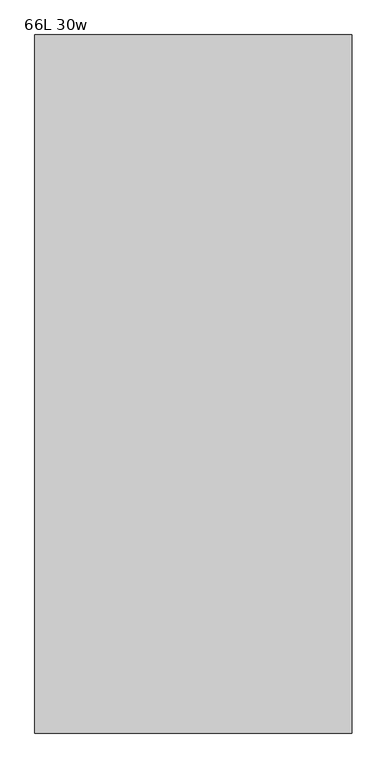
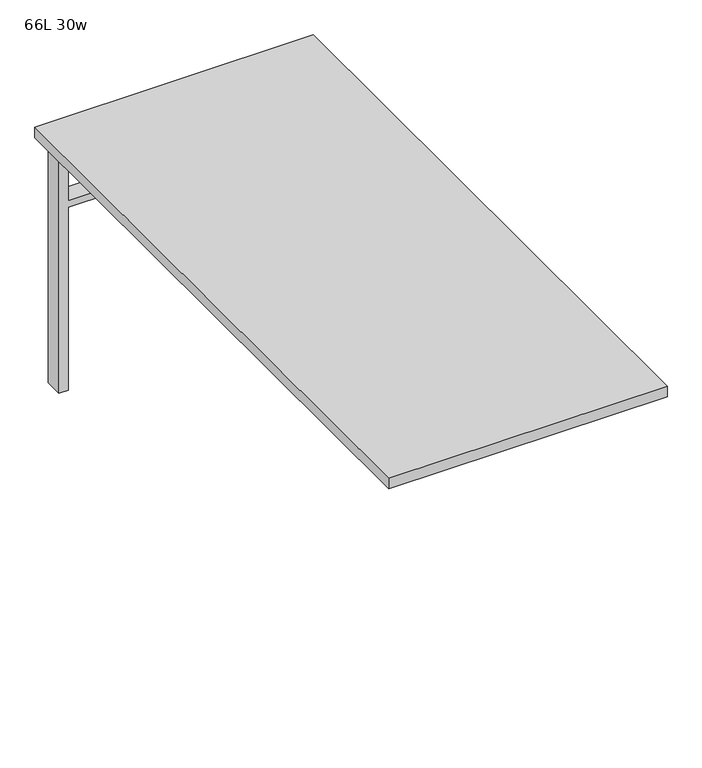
"""IFC4 building model written with IfcOpenShell, lengths in millimetres: furniture geometry, Haworth_Compose_Worksurface_RectangularConvergent : 66L 30w."""

from ifc_helpers import new_model, si_unit, frame, origin, place, context, project, spatial, polyline, outline, extrude, source, transform, mapped, element, save


def furniture_66l_30w_0c5df5db(model_context):
    return source(origin(), model_context, "Body", "SweptSolid", [
        extrude(outline(polyline([(-330.2, 777.875), (-330.2, 809.625), (330.2, 809.625), (330.2, 777.875), (-330.2, 777.875)])), frame((0.0, 0.0, 661.9875), z_axis=(0.0, 0.0, 1.0), x_axis=(1.0, 0.0, 0.0)), (0.0, 0.0, 1.0), 44.45),
        extrude(outline(polyline([(528.6375, 330.2), (0.0, 330.2), (0.0, 355.6), (706.4375, 355.6), (706.4375, 330.2), (547.6875, 330.2), (547.6875, -330.2), (706.4375, -330.2), (706.4375, -355.6), (0.0, -355.6), (0.0, -330.2), (528.6375, -330.2), (528.6375, 330.2)])), frame((0.0, 768.35, 0.0), z_axis=(0.0, 1.0, 0.0), x_axis=(0.0, 0.0, 1.0)), (0.0, 0.0, 1.0), 50.8),
        extrude(outline(polyline([(-381.0, 838.2), (381.0, 838.2), (381.0, -838.2), (-381.0, -838.2), (-381.0, 838.2)])), frame((0.0, 0.0, 706.4375), z_axis=(0.0, 0.0, 1.0), x_axis=(1.0, 0.0, 0.0)), (0.0, 0.0, 1.0), 30.1625),
    ])


if __name__ == "__main__":
    model = new_model("IFC4")
    model_context = context("Model", 3, world=origin())
    ifc_project = project(units=[si_unit("LENGTHUNIT", "METRE", prefix="MILLI")], contexts=[model_context])
    site = spatial("IfcSite", under=ifc_project)
    building = spatial("IfcBuilding", under=site)
    placement = place(None, origin())
    furniture_66l_30w_shape = furniture_66l_30w_0c5df5db(model_context)
    element("IfcFurniture", 1, ObjectType="Haworth_Compose_Worksurface_RectangularConvergent : 66L 30w", at=placement, inside=building, context=model_context, shape_type="MappedRepresentation", body=[
        mapped(furniture_66l_30w_shape, transform((0.0, 0.0, 0.0), x_axis=(1.0, 0.0, 0.0), y_axis=(0.0, 1.0, 0.0), z_axis=(0.0, 0.0, 1.0))),
    ])
    save(model, "model.ifc")
